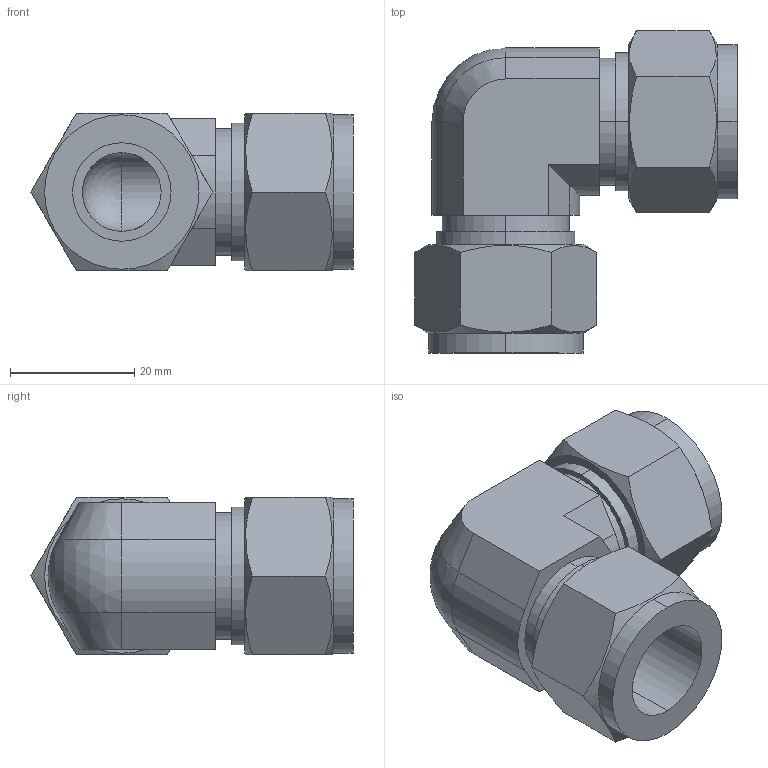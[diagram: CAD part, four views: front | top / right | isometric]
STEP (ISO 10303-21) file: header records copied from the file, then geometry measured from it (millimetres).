
FILE_DESCRIPTION (( 'STEP AP203' ), '1' );
FILE_NAME ('DLA10 SS.STEP', '2009-10-26T06:02:29', ( ' ' ), ( '' ), 'SwSTEP 2.0', 'SolidWorks 2008', '' );
FILE_SCHEMA (( 'CONFIG_CONTROL_DESIGN' ));
Length unit declared in the file: millimetre
Products named in the file (1): DLA10 SS
Bounding box: 51.96 x 51.96 x 25.4 mm (x, y, z)
Volume: 23279.3 mm3; surface area: 10828.1 mm2
Topology: 1 solids, 1 shells, 68 faces, 164 edges, 104 vertices
Faces by surface type: plane 32, cylinder 24, cone 10, sphere 2
Entity records: 2233 total; most frequent: CARTESIAN_POINT 609, ORIENTED_EDGE 320, DIRECTION 316, EDGE_CURVE 160, AXIS2_PLACEMENT_3D 121, VERTEX_POINT 102, EDGE_LOOP 78, VECTOR 74
